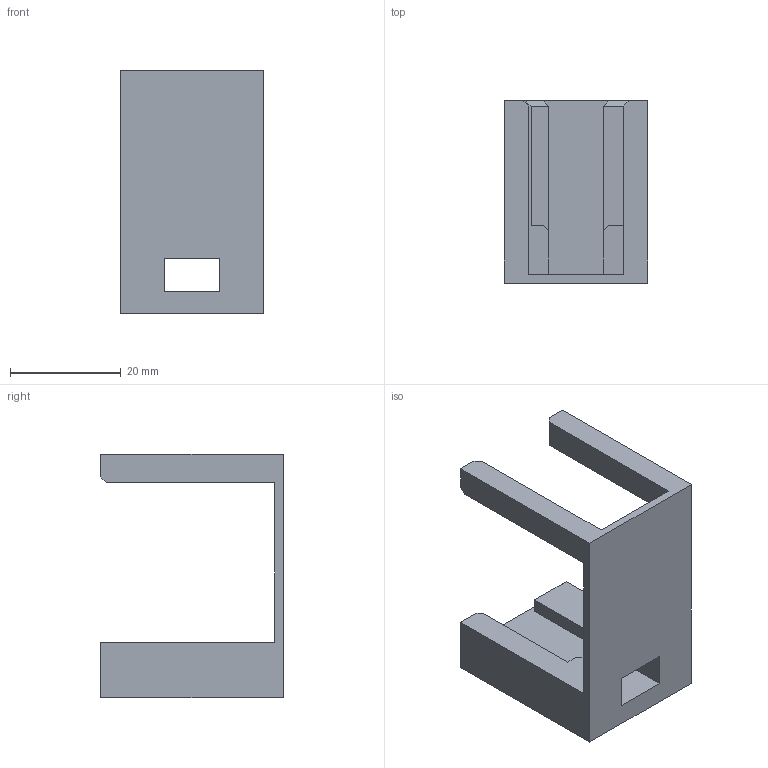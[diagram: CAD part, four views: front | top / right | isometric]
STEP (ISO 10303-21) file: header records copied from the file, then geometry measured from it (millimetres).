
FILE_DESCRIPTION(('CATIA V5 STEP Exchange'),'2;1');
FILE_NAME('G:\够快云库\系统集成开发部\1.部门成员\孙国\工装\手动插管\STP\V3\GZ-SDCG03_V4 阀体固定座.stp','2021-03-19T01:48:22+00:00',('none'),('none'),'CATIA Version 5 Release 20 GA (IN-10)','CATIA V5 STEP AP214','none');
FILE_SCHEMA(('AUTOMOTIVE_DESIGN { 1 0 10303 214 1 1 1 1 }'));
Length unit declared in the file: millimetre
Products named in the file (1): 阀体固定座.1
Bounding box: 26 x 33 x 44 mm (x, y, z)
Volume: 8467.5 mm3; surface area: 6083.2 mm2
Topology: 1 solids, 1 shells, 35 faces, 95 edges, 61 vertices
Faces by surface type: plane 35
Entity records: 1240 total; most frequent: CARTESIAN_POINT 192, ORIENTED_EDGE 190, DIRECTION 144, EDGE_CURVE 95, VECTOR 88, LINE 88, VERTEX_POINT 61, EDGE_LOOP 36
